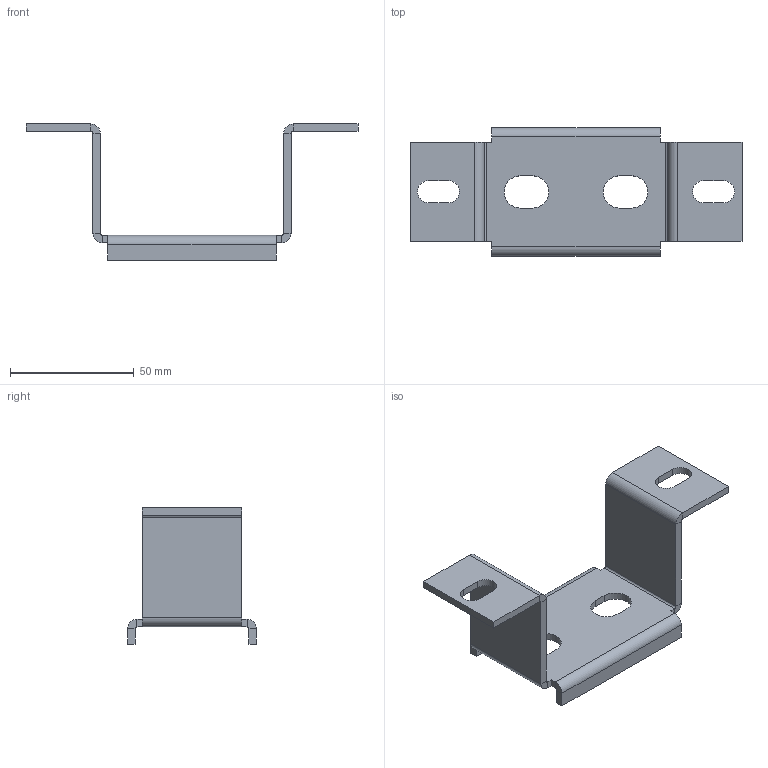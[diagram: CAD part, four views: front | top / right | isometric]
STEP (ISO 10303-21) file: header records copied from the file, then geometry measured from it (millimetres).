
FILE_DESCRIPTION(/* description */ ('Deckenkonsole Nr. 0, 2-fach'),/* implementation_level */ '2;1');
FILE_NAME(/* name */ 'Q:\sge-ma\Produktmanagement-STB\STB\Workspace\TraceParts\Deckenkonsole\010335802.stp',/* time_stamp */ '2018-02-20T12:52:08+01:00',/* author */ ('avschreier'),/* organization */ (''),/* preprocessor_version */ 'ST-DEVELOPER v16.1',/* originating_system */ 'Autodesk Inventor 2016',/* authorisation */ '');
FILE_SCHEMA (('CONFIG_CONTROL_DESIGN'));
Length unit declared in the file: millimetre
Products named in the file (1): 010335802
Bounding box: 134 x 52 x 55 mm (x, y, z)
Volume: 29307.3 mm3; surface area: 21813.4 mm2
Topology: 1 solids, 1 shells, 78 faces, 180 edges, 104 vertices
Faces by surface type: plane 58, cylinder 20
Entity records: 2180 total; most frequent: DIRECTION 378, CARTESIAN_POINT 363, ORIENTED_EDGE 360, EDGE_CURVE 180, LINE 140, VECTOR 140, AXIS2_PLACEMENT_3D 119, VERTEX_POINT 104
